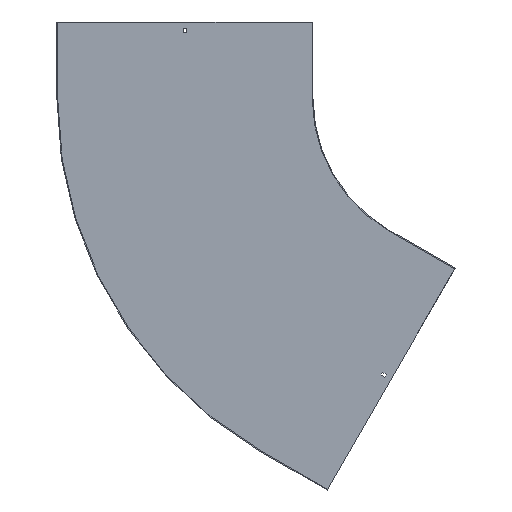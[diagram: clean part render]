
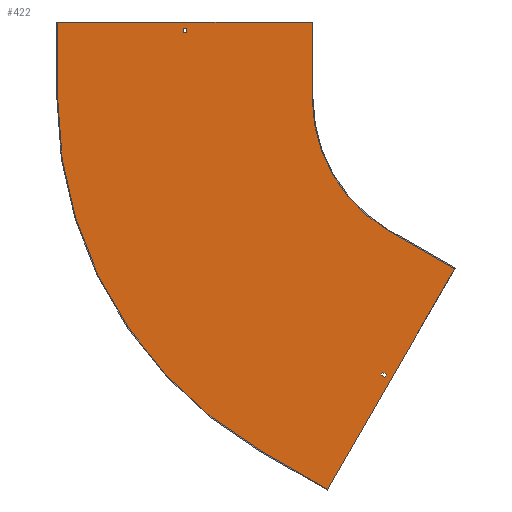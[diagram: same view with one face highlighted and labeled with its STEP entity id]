
A CAD part, front view. The second image highlights one B-rep face of the part: STEP entity #422.
In plain terms, the highlighted planar face has unit normal (0, -1, 0).
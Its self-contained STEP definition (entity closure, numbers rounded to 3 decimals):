
#3 = VERTEX_POINT ( 'NONE', #100 ) ;
#6 = EDGE_CURVE ( 'NONE', #99, #623, #423, .T. ) ;
#22 = CARTESIAN_POINT ( 'NONE',  ( 111.717, -1.5, -64.5 ) ) ;
#29 = VECTOR ( 'NONE', #748, 1000. ) ;
#33 = DIRECTION ( 'NONE',  ( 1., 0., 0. ) ) ;
#34 = DIRECTION ( 'NONE',  ( -1., 0., 0. ) ) ;
#37 = ORIENTED_EDGE ( 'NONE', *, *, #318, .F. ) ;
#39 = CARTESIAN_POINT ( 'NONE',  ( -553.25, -1.5, 138. ) ) ;
#61 = VECTOR ( 'NONE', #169, 1000. ) ;
#66 = CIRCLE ( 'NONE', #577, 800. ) ;
#67 = EDGE_LOOP ( 'NONE', ( #192, #764, #484, #438 ) ) ;
#73 = CARTESIAN_POINT ( 'NONE',  ( -300., -1.5, 150. ) ) ;
#80 = LINE ( 'NONE', #340, #381 ) ;
#82 = DIRECTION ( 'NONE',  ( -0.866, 0., 0.5 ) ) ;
#87 = LINE ( 'NONE', #740, #564 ) ;
#88 = DIRECTION ( 'NONE',  ( 0.866, 0., -0.5 ) ) ;
#93 = LINE ( 'NONE', #410, #61 ) ;
#99 = VERTEX_POINT ( 'NONE', #561 ) ;
#100 = CARTESIAN_POINT ( 'NONE',  ( -161.658, -1.5, -537.999 ) ) ;
#107 = DIRECTION ( 'NONE',  ( -0.866, 0., 0.5 ) ) ;
#113 = CARTESIAN_POINT ( 'NONE',  ( -157.113, -1.5, -548.129 ) ) ;
#118 = EDGE_CURVE ( 'NONE', #439, #534, #502, .T. ) ;
#119 = DIRECTION ( 'NONE',  ( 0., 0., 1. ) ) ;
#150 = CARTESIAN_POINT ( 'NONE',  ( -546.75, -1.5, 129. ) ) ;
#154 = CARTESIAN_POINT ( 'NONE',  ( 0., -1.5, 0. ) ) ;
#157 = DIRECTION ( 'NONE',  ( 1., 0., 0. ) ) ;
#161 = CARTESIAN_POINT ( 'NONE',  ( -546.75, -1.5, 0. ) ) ;
#167 = VECTOR ( 'NONE', #33, 1000. ) ;
#169 = DIRECTION ( 'NONE',  ( 0.866, 0., -0.5 ) ) ;
#170 = ORIENTED_EDGE ( 'NONE', *, *, #784, .F. ) ;
#179 = VERTEX_POINT ( 'NONE', #718 ) ;
#180 = VERTEX_POINT ( 'NONE', #321 ) ;
#184 = LINE ( 'NONE', #854, #587 ) ;
#192 = ORIENTED_EDGE ( 'NONE', *, *, #476, .T. ) ;
#201 = EDGE_LOOP ( 'NONE', ( #297, #538, #37, #265, #562, #295, #432, #618 ) ) ;
#207 = CARTESIAN_POINT ( 'NONE',  ( -150., -1.5, -259.808 ) ) ;
#213 = LINE ( 'NONE', #487, #29 ) ;
#225 = CARTESIAN_POINT ( 'NONE',  ( 0., -1.5, 0. ) ) ;
#239 = DIRECTION ( 'NONE',  ( 0.5, 0., 0.866 ) ) ;
#265 = ORIENTED_EDGE ( 'NONE', *, *, #730, .F. ) ;
#291 = LINE ( 'NONE', #161, #855 ) ;
#293 = FACE_OUTER_BOUND ( 'NONE', #201, .T. ) ;
#294 = DIRECTION ( 'NONE',  ( 0., 0., -1. ) ) ;
#295 = ORIENTED_EDGE ( 'NONE', *, *, #571, .F. ) ;
#297 = ORIENTED_EDGE ( 'NONE', *, *, #658, .F. ) ;
#310 = CARTESIAN_POINT ( 'NONE',  ( -400., -1.5, -692.82 ) ) ;
#316 = EDGE_CURVE ( 'NONE', #671, #342, #213, .T. ) ;
#318 = EDGE_CURVE ( 'NONE', #411, #180, #66, .T. ) ;
#321 = CARTESIAN_POINT ( 'NONE',  ( -800., -1.5, 0. ) ) ;
#323 = VECTOR ( 'NONE', #501, 1000. ) ;
#326 = VECTOR ( 'NONE', #685, 1000. ) ;
#328 = EDGE_CURVE ( 'NONE', #567, #643, #291, .T. ) ;
#340 = CARTESIAN_POINT ( 'NONE',  ( 0., -1.5, 129. ) ) ;
#341 = LINE ( 'NONE', #22, #326 ) ;
#342 = VERTEX_POINT ( 'NONE', #698 ) ;
#343 = VERTEX_POINT ( 'NONE', #39 ) ;
#347 = DIRECTION ( 'NONE',  ( 0., 1., 0. ) ) ;
#348 = CARTESIAN_POINT ( 'NONE',  ( 119.512, -1.5, -69. ) ) ;
#349 = LINE ( 'NONE', #622, #167 ) ;
#355 = ORIENTED_EDGE ( 'NONE', *, *, #118, .F. ) ;
#370 = CARTESIAN_POINT ( 'NONE',  ( -150., -1.5, -259.808 ) ) ;
#371 = VERTEX_POINT ( 'NONE', #370 ) ;
#381 = VECTOR ( 'NONE', #34, 1000. ) ;
#384 = CIRCLE ( 'NONE', #516, 300. ) ;
#404 = DIRECTION ( 'NONE',  ( 0., 0., 1. ) ) ;
#405 = LINE ( 'NONE', #744, #714 ) ;
#406 = LINE ( 'NONE', #207, #776 ) ;
#410 = CARTESIAN_POINT ( 'NONE',  ( -276.625, -1.5, -479.129 ) ) ;
#411 = VERTEX_POINT ( 'NONE', #310 ) ;
#422 = ADVANCED_FACE ( 'NONE', ( #509, #293, #642 ), #626, .T. ) ;
#423 = LINE ( 'NONE', #641, #323 ) ;
#425 = DIRECTION ( 'NONE',  ( 0., 0., -1. ) ) ;
#432 = ORIENTED_EDGE ( 'NONE', *, *, #590, .F. ) ;
#438 = ORIENTED_EDGE ( 'NONE', *, *, #525, .T. ) ;
#439 = VERTEX_POINT ( 'NONE', #113 ) ;
#447 = VECTOR ( 'NONE', #404, 1000. ) ;
#456 = EDGE_CURVE ( 'NONE', #635, #439, #93, .T. ) ;
#458 = VECTOR ( 'NONE', #107, 1000. ) ;
#476 = EDGE_CURVE ( 'NONE', #343, #567, #349, .T. ) ;
#484 = ORIENTED_EDGE ( 'NONE', *, *, #665, .T. ) ;
#487 = CARTESIAN_POINT ( 'NONE',  ( -300., -1.5, 150. ) ) ;
#497 = DIRECTION ( 'NONE',  ( 0., -1., 0. ) ) ;
#501 = DIRECTION ( 'NONE',  ( -0.5, 0., -0.866 ) ) ;
#502 = LINE ( 'NONE', #348, #535 ) ;
#507 = VERTEX_POINT ( 'NONE', #832 ) ;
#509 = FACE_BOUND ( 'NONE', #598, .T. ) ;
#516 = AXIS2_PLACEMENT_3D ( 'NONE', #612, #679, #294 ) ;
#525 = EDGE_CURVE ( 'NONE', #179, #343, #184, .T. ) ;
#534 = VERTEX_POINT ( 'NONE', #791 ) ;
#535 = VECTOR ( 'NONE', #239, 1000. ) ;
#536 = AXIS2_PLACEMENT_3D ( 'NONE', #225, #497, #638 ) ;
#538 = ORIENTED_EDGE ( 'NONE', *, *, #657, .F. ) ;
#548 = CARTESIAN_POINT ( 'NONE',  ( -270.096, -1.5, -767.82 ) ) ;
#561 = CARTESIAN_POINT ( 'NONE',  ( -20.096, -1.5, -334.808 ) ) ;
#562 = ORIENTED_EDGE ( 'NONE', *, *, #6, .F. ) ;
#564 = VECTOR ( 'NONE', #157, 1000. ) ;
#567 = VERTEX_POINT ( 'NONE', #798 ) ;
#571 = EDGE_CURVE ( 'NONE', #371, #99, #406, .T. ) ;
#577 = AXIS2_PLACEMENT_3D ( 'NONE', #154, #347, #621 ) ;
#587 = VECTOR ( 'NONE', #119, 1000. ) ;
#590 = EDGE_CURVE ( 'NONE', #342, #371, #384, .T. ) ;
#598 = EDGE_LOOP ( 'NONE', ( #170, #355, #751, #736 ) ) ;
#612 = CARTESIAN_POINT ( 'NONE',  ( 0., -1.5, 0. ) ) ;
#618 = ORIENTED_EDGE ( 'NONE', *, *, #316, .F. ) ;
#621 = DIRECTION ( 'NONE',  ( 0., 0., -1. ) ) ;
#622 = CARTESIAN_POINT ( 'NONE',  ( 0., -1.5, 138. ) ) ;
#623 = VERTEX_POINT ( 'NONE', #548 ) ;
#626 = PLANE ( 'NONE',  #536 ) ;
#635 = VERTEX_POINT ( 'NONE', #820 ) ;
#638 = DIRECTION ( 'NONE',  ( 0., 0., -1. ) ) ;
#641 = CARTESIAN_POINT ( 'NONE',  ( -19.346, -1.5, -333.509 ) ) ;
#642 = FACE_BOUND ( 'NONE', #67, .T. ) ;
#643 = VERTEX_POINT ( 'NONE', #150 ) ;
#657 = EDGE_CURVE ( 'NONE', #180, #507, #757, .T. ) ;
#658 = EDGE_CURVE ( 'NONE', #507, #671, #87, .T. ) ;
#665 = EDGE_CURVE ( 'NONE', #643, #179, #80, .T. ) ;
#671 = VERTEX_POINT ( 'NONE', #73 ) ;
#679 = DIRECTION ( 'NONE',  ( 0., -1., 0. ) ) ;
#685 = DIRECTION ( 'NONE',  ( -0.5, 0., -0.866 ) ) ;
#698 = CARTESIAN_POINT ( 'NONE',  ( -300., -1.5, 0. ) ) ;
#707 = LINE ( 'NONE', #709, #458 ) ;
#709 = CARTESIAN_POINT ( 'NONE',  ( -273.375, -1.5, -473.499 ) ) ;
#714 = VECTOR ( 'NONE', #82, 1000. ) ;
#718 = CARTESIAN_POINT ( 'NONE',  ( -553.25, -1.5, 129. ) ) ;
#730 = EDGE_CURVE ( 'NONE', #623, #411, #405, .T. ) ;
#734 = EDGE_CURVE ( 'NONE', #3, #635, #341, .T. ) ;
#736 = ORIENTED_EDGE ( 'NONE', *, *, #734, .F. ) ;
#740 = CARTESIAN_POINT ( 'NONE',  ( -801.5, -1.5, 150. ) ) ;
#744 = CARTESIAN_POINT ( 'NONE',  ( -270.096, -1.5, -767.82 ) ) ;
#748 = DIRECTION ( 'NONE',  ( 0., 0., -1. ) ) ;
#751 = ORIENTED_EDGE ( 'NONE', *, *, #456, .F. ) ;
#752 = CARTESIAN_POINT ( 'NONE',  ( -800., -1.5, 0. ) ) ;
#757 = LINE ( 'NONE', #752, #447 ) ;
#764 = ORIENTED_EDGE ( 'NONE', *, *, #328, .T. ) ;
#776 = VECTOR ( 'NONE', #88, 1000. ) ;
#784 = EDGE_CURVE ( 'NONE', #534, #3, #707, .T. ) ;
#791 = CARTESIAN_POINT ( 'NONE',  ( -153.863, -1.5, -542.499 ) ) ;
#798 = CARTESIAN_POINT ( 'NONE',  ( -546.75, -1.5, 138. ) ) ;
#820 = CARTESIAN_POINT ( 'NONE',  ( -164.908, -1.5, -543.629 ) ) ;
#832 = CARTESIAN_POINT ( 'NONE',  ( -800., -1.5, 150. ) ) ;
#854 = CARTESIAN_POINT ( 'NONE',  ( -553.25, -1.5, 0. ) ) ;
#855 = VECTOR ( 'NONE', #425, 1000. ) ;
